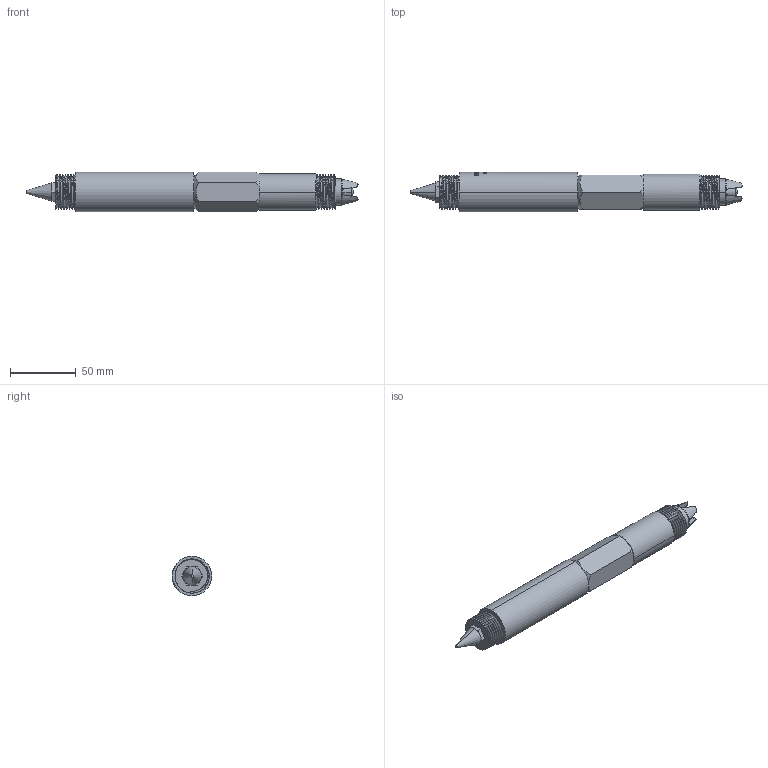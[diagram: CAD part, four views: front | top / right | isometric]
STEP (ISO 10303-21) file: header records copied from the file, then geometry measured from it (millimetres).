
FILE_DESCRIPTION((''),'2;1');
FILE_NAME('ASM0007_ASM','2025-12-29T09:49:16',('28740194'),(''),'CREO PARAMETRIC BY PTC INC, 2024063','CREO PARAMETRIC BY PTC INC, 2024063','');
FILE_SCHEMA(('CONFIG_CONTROL_DESIGN'));
Length unit declared in the file: millimetre
Products named in the file (4): KWS-3000; 222000; 0002; ASM0007_ASM
Assembly tree (4 placements, depth 2):
  ASM0007_ASM
    KWS-3000
    222000  x2
    0002
Bounding box: 252.56 x 30.15 x 30 mm (x, y, z)
Volume: 18926.9 mm3; surface area: 27024.7 mm2
Topology: 4 solids, 7 shells, 557 faces, 1564 edges, 1035 vertices
Faces by surface type: bspline 424, cylinder 66, plane 47, cone 14, torus 4, sphere 2
Entity records: 25043 total; most frequent: CARTESIAN_POINT 14451, ORIENTED_EDGE 2970, EDGE_CURVE 1497, B_SPLINE_CURVE_WITH_KNOTS 1088, VERTEX_POINT 993, DIRECTION 829, EDGE_LOOP 551, FACE_OUTER_BOUND 532
